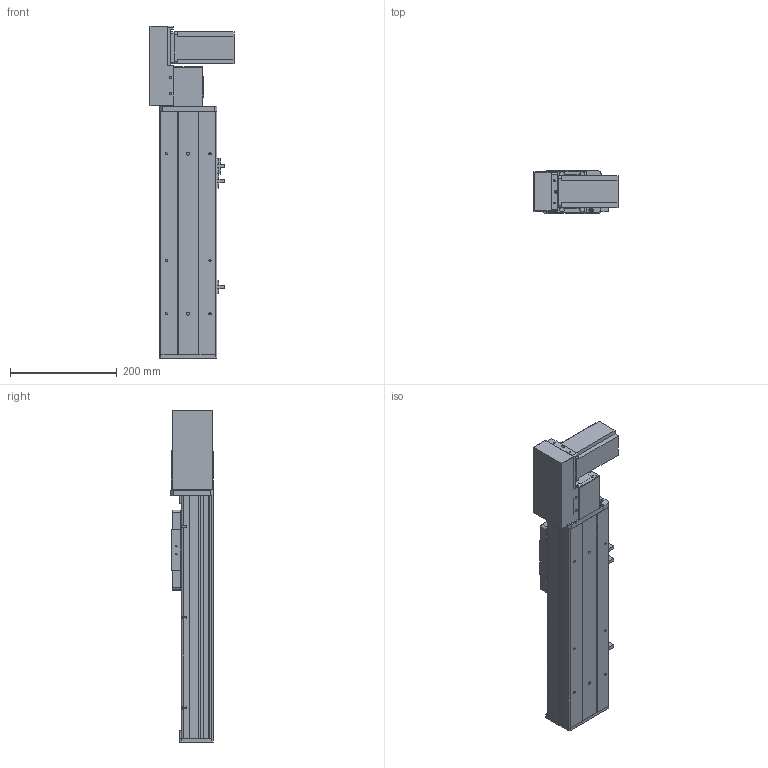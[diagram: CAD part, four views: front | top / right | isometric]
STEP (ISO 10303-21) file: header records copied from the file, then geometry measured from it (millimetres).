
FILE_DESCRIPTION (( 'STEP AP203' ), '1' );
FILE_NAME ('Y10CB-D90-S200-BL-P400W.STEP', '2020-02-15T07:25:51', ( '微软用户' ), ( '微软中国' ), 'SwSTEP 2.0', 'SolidWorks 2017', '' );
FILE_SCHEMA (( 'CONFIG_CONTROL_DESIGN' ));
Length unit declared in the file: millimetre
Products named in the file (18): 10CB-詩湍-; Y10B-々湍喘謫眊楊擘啣--; Y10CB- 掛极耜裔啣-毀---; Y10B--々湍喘謫眊--666; Y10C---詩湍揤啣; Y10B-耜蚾蟀諉啣----; 10CB9-掛极; 0B-萇儂楊擘啣; 10CB-耜裔; san松下电机400不带刹车----; Y135C-陔俋离換覜結え-; 0B-源倛裔啣; Y100-135俋离換覜ん--; 0B-埴倛裔啣; 0CB-雄赽釱---; Y10CB-D90-S200-BL-P400W; Y俋欶BR----; 0Cb-俋欶---
Assembly tree (21 placements, depth 2):
  Y10CB-D90-S200-BL-P400W
    0CB-雄赽釱---
    0Cb-俋欶---
    Y10B-々湍喘謫眊楊擘啣--
    Y10B--々湍喘謫眊--666
    Y10B-耜蚾蟀諉啣----
    0B-萇儂楊擘啣
    san松下电机400不带刹车----
    0B-源倛裔啣
    0B-埴倛裔啣
    Y俋欶BR----
    10CB-詩湍-
    Y10CB- 掛极耜裔啣-毀---  x2
    Y10C---詩湍揤啣  x2
    10CB9-掛极
    10CB-耜裔
    Y135C-陔俋离換覜結え-
    Y100-135俋离換覜ん--  x3
Bounding box: 157.5 x 80.5 x 622.5 mm (x, y, z)
Volume: 1740612 mm3; surface area: 708585.7 mm2
Topology: 21 solids, 21 shells, 1004 faces, 2651 edges, 1746 vertices
Faces by surface type: cylinder 497, plane 483, cone 24
Entity records: 30256 total; most frequent: CARTESIAN_POINT 5219, DIRECTION 4942, ORIENTED_EDGE 4640, EDGE_CURVE 2320, AXIS2_PLACEMENT_3D 1779, VERTEX_POINT 1528, VECTOR 1384, LINE 1384
